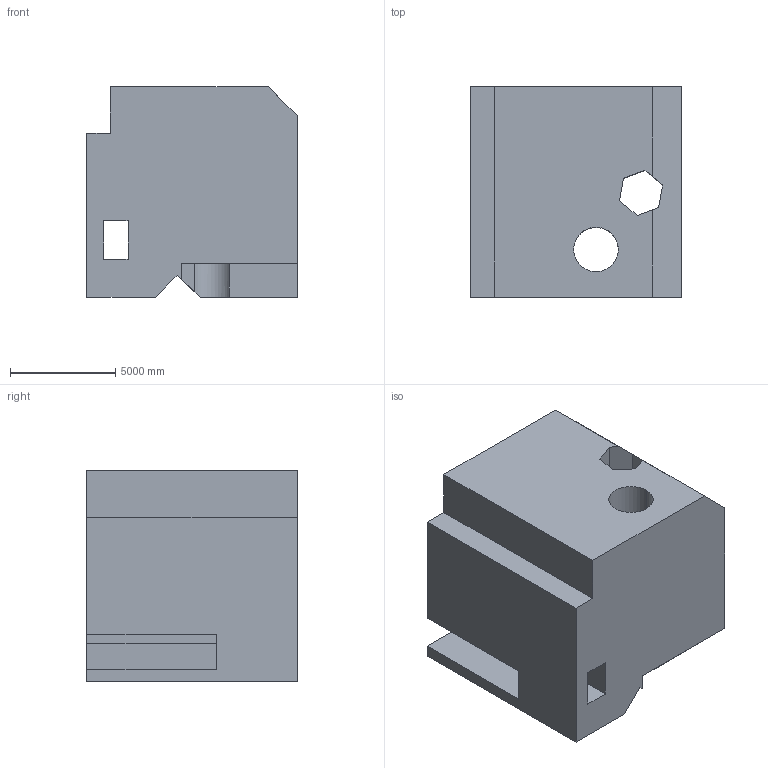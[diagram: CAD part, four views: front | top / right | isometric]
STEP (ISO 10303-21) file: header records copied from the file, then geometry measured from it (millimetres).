
FILE_DESCRIPTION (( 'STEP AP203' ), '1' );
FILE_NAME ('783.STEP', '2022-07-29T13:10:53', ( 'user' ), ( '' ), 'SwSTEP 2.0', 'SolidWorks 2021', '' );
FILE_SCHEMA (( 'CONFIG_CONTROL_DESIGN' ));
Length unit declared in the file: centimetre
Products named in the file (1): 783
Bounding box: 10000 x 10000 x 10000 mm (x, y, z)
Volume: 839505461057.5 mm3; surface area: 760722775.9 mm2
Topology: 1 solids, 1 shells, 32 faces, 99 edges, 66 vertices
Faces by surface type: plane 30, cylinder 2
Entity records: 1177 total; most frequent: CARTESIAN_POINT 204, ORIENTED_EDGE 198, DIRECTION 168, EDGE_CURVE 99, VECTOR 92, LINE 92, VERTEX_POINT 66, AXIS2_PLACEMENT_3D 38
